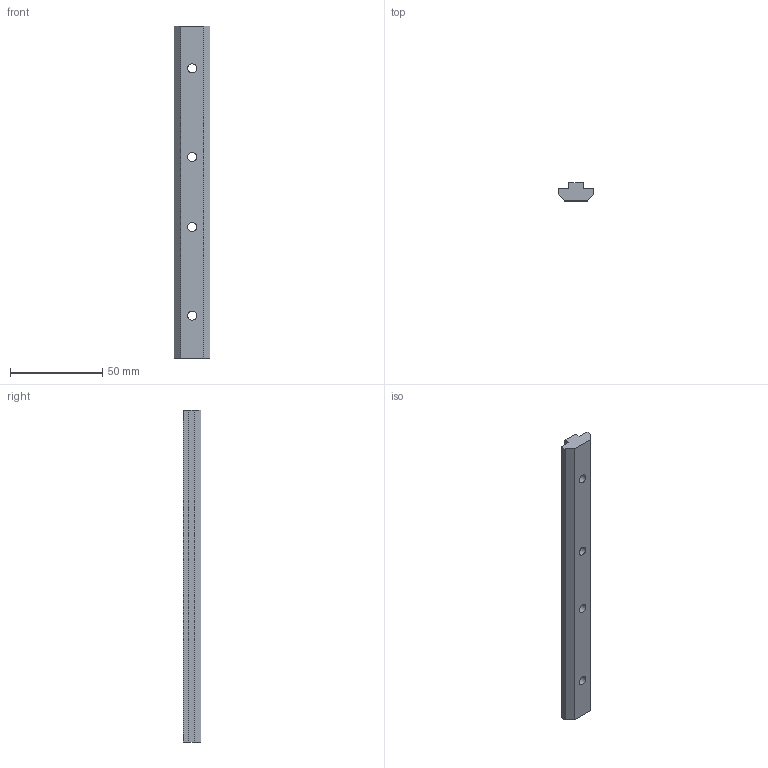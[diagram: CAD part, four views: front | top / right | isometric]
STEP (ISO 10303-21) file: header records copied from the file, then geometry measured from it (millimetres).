
FILE_DESCRIPTION((''),'2;1');
FILE_NAME('E:\catalogue and flyer\Profile catalogue 2015\Accessories JE info\Accessories-JE step file 31MAr16\JE-Joint Connector-8_4040.stp','2016-04-07T09:03:18',('h029'),(''),'Autodesk Inventor 11','Autodesk Inventor 11','');
FILE_SCHEMA(('AUTOMOTIVE_DESIGN { 1 0 10303 214 1 1 1 1 }'));
Length unit declared in the file: millimetre
Products named in the file (1): JE-Joint Connector-8_4040
Bounding box: 19.5 x 9.5 x 180 mm (x, y, z)
Volume: 24177.1 mm3; surface area: 10408.3 mm2
Topology: 1 solids, 1 shells, 16 faces, 46 edges, 32 vertices
Faces by surface type: plane 12, bspline 4
Entity records: 565 total; most frequent: CARTESIAN_POINT 151, ORIENTED_EDGE 76, DIRECTION 72, EDGE_CURVE 38, VECTOR 30, LINE 30, VERTEX_POINT 28, EDGE_LOOP 28
